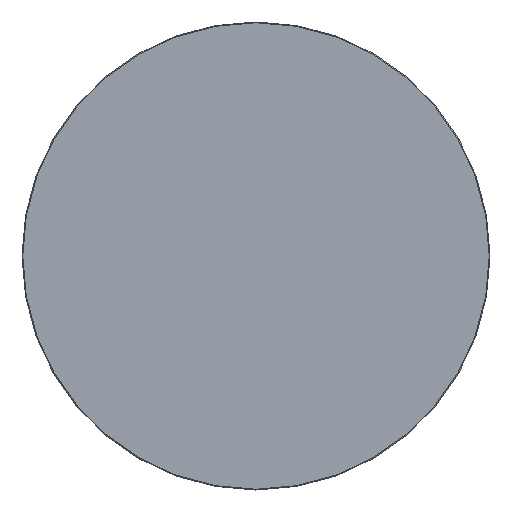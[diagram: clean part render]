
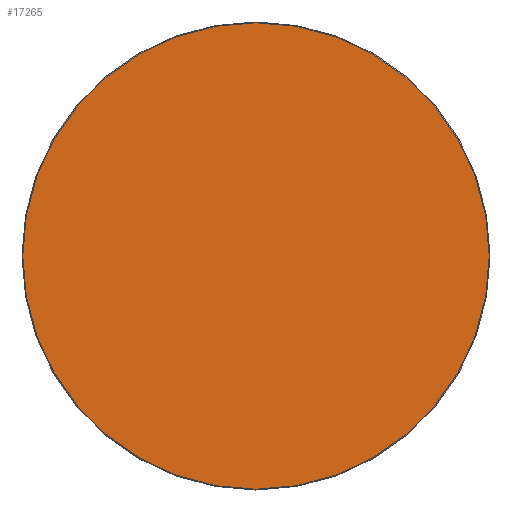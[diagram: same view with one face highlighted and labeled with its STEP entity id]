
A CAD part, top view. The second image highlights one B-rep face of the part: STEP entity #17265.
In plain terms, the highlighted planar face has unit normal (0, 0, 1).
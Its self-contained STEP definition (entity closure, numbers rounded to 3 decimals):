
#17190=CARTESIAN_POINT('',(0.,0.,20.));
#17191=DIRECTION('',(1.,0.,0.));
#17192=DIRECTION('',(0.,0.,1.));
#17193=AXIS2_PLACEMENT_3D('',#17190,#17192,#17191);
#17194=PLANE('',#17193);
#17195=CARTESIAN_POINT('',(-0.5,-448.5,20.));
#17196=VERTEX_POINT('',#17195);
#17197=CARTESIAN_POINT('',(0.5,-448.5,20.));
#17198=VERTEX_POINT('',#17197);
#17199=CARTESIAN_POINT('',(-0.5,-448.5,20.));
#17200=DIRECTION('',(1.,0.,0.));
#17201=VECTOR('',#17200,1.);
#17202=LINE('',#17199,#17201);
#17203=EDGE_CURVE('',#17196,#17198,#17202,.T.);
#17204=ORIENTED_EDGE('E105',*,*,#17203,.T.);
#17205=CARTESIAN_POINT('',(448.5,-0.5,20.));
#17206=VERTEX_POINT('',#17205);
#17207=CARTESIAN_POINT('',(0.5,-0.5,20.));
#17208=DIRECTION('',(0.,-1.,0.));
#17209=DIRECTION('',(0.,0.,1.));
#17210=AXIS2_PLACEMENT_3D('',#17207,#17209,#17208);
#17211=CIRCLE('',#17210,448.);
#17212=EDGE_CURVE('',#17198,#17206,#17211,.T.);
#17213=ORIENTED_EDGE('E107',*,*,#17212,.T.);
#17214=CARTESIAN_POINT('',(448.5,0.5,20.));
#17215=VERTEX_POINT('',#17214);
#17216=CARTESIAN_POINT('',(448.5,-0.5,20.));
#17217=DIRECTION('',(0.,1.,0.));
#17218=VECTOR('',#17217,1.);
#17219=LINE('',#17216,#17218);
#17220=EDGE_CURVE('',#17206,#17215,#17219,.T.);
#17221=ORIENTED_EDGE('E109',*,*,#17220,.T.);
#17222=CARTESIAN_POINT('',(0.5,448.5,20.));
#17223=VERTEX_POINT('',#17222);
#17224=CARTESIAN_POINT('',(0.5,0.5,20.));
#17225=DIRECTION('',(1.,0.,0.));
#17226=DIRECTION('',(0.,0.,1.));
#17227=AXIS2_PLACEMENT_3D('',#17224,#17226,#17225);
#17228=CIRCLE('',#17227,448.);
#17229=EDGE_CURVE('',#17215,#17223,#17228,.T.);
#17230=ORIENTED_EDGE('E111',*,*,#17229,.T.);
#17231=CARTESIAN_POINT('',(-0.5,448.5,20.));
#17232=VERTEX_POINT('',#17231);
#17233=CARTESIAN_POINT('',(0.5,448.5,20.));
#17234=DIRECTION('',(-1.,0.,0.));
#17235=VECTOR('',#17234,1.);
#17236=LINE('',#17233,#17235);
#17237=EDGE_CURVE('',#17223,#17232,#17236,.T.);
#17238=ORIENTED_EDGE('E113',*,*,#17237,.T.);
#17239=CARTESIAN_POINT('',(-448.5,0.5,20.));
#17240=VERTEX_POINT('',#17239);
#17241=CARTESIAN_POINT('',(-0.5,0.5,20.));
#17242=DIRECTION('',(0.,1.,0.));
#17243=DIRECTION('',(0.,0.,1.));
#17244=AXIS2_PLACEMENT_3D('',#17241,#17243,#17242);
#17245=CIRCLE('',#17244,448.);
#17246=EDGE_CURVE('',#17232,#17240,#17245,.T.);
#17247=ORIENTED_EDGE('E115',*,*,#17246,.T.);
#17248=CARTESIAN_POINT('',(-448.5,-0.5,20.));
#17249=VERTEX_POINT('',#17248);
#17250=CARTESIAN_POINT('',(-448.5,0.5,20.));
#17251=DIRECTION('',(0.,-1.,0.));
#17252=VECTOR('',#17251,1.);
#17253=LINE('',#17250,#17252);
#17254=EDGE_CURVE('',#17240,#17249,#17253,.T.);
#17255=ORIENTED_EDGE('E117',*,*,#17254,.T.);
#17256=CARTESIAN_POINT('',(-0.5,-0.5,20.));
#17257=DIRECTION('',(-1.,0.,0.));
#17258=DIRECTION('',(0.,0.,1.));
#17259=AXIS2_PLACEMENT_3D('',#17256,#17258,#17257);
#17260=CIRCLE('',#17259,448.);
#17261=EDGE_CURVE('',#17249,#17196,#17260,.T.);
#17262=ORIENTED_EDGE('E119',*,*,#17261,.T.);
#17263=EDGE_LOOP('',(#17204,#17213,#17221,#17230,#17238,#17247,#17255,#17262));
#17264=FACE_OUTER_BOUND('',#17263,.T.);
#17265=ADVANCED_FACE('F2',(#17264),#17194,.T.);
